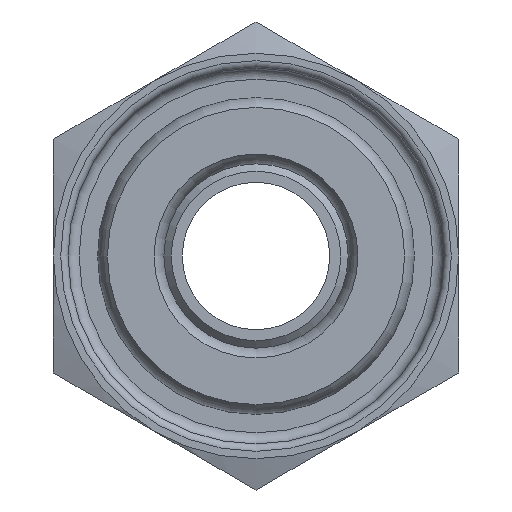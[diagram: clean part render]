
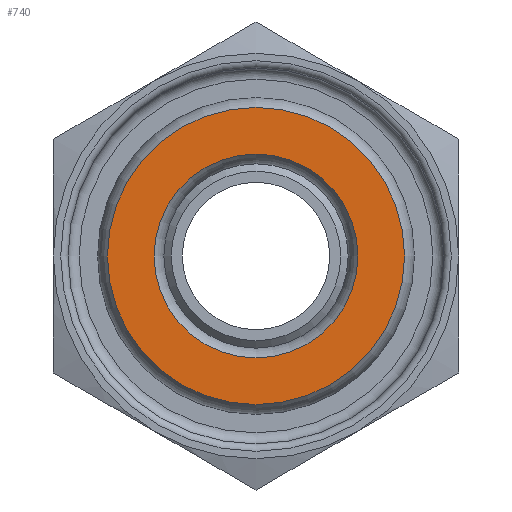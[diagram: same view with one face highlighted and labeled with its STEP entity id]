
A CAD part, front view. The second image highlights one B-rep face of the part: STEP entity #740.
In plain terms, the highlighted planar face has unit normal (0, -1, 0) as drawn and (1, 0, 0) by its records, which use the part's own axes.
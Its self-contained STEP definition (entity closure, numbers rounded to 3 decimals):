
#80=FACE_BOUND('',#217,.T.);
#98=PLANE('',#922);
#155=FACE_OUTER_BOUND('',#216,.T.);
#216=EDGE_LOOP('',(#678));
#217=EDGE_LOOP('',(#679));
#310=CIRCLE('',#916,2.767);
#312=CIRCLE('',#920,4.033);
#374=VERTEX_POINT('',#1430);
#376=VERTEX_POINT('',#1437);
#474=EDGE_CURVE('',#374,#374,#310,.T.);
#476=EDGE_CURVE('',#376,#376,#312,.T.);
#678=ORIENTED_EDGE('',*,*,#476,.T.);
#679=ORIENTED_EDGE('',*,*,#474,.F.);
#740=ADVANCED_FACE('',(#155,#80),#98,.T.);
#916=AXIS2_PLACEMENT_3D('',#1432,#1155,#1156);
#920=AXIS2_PLACEMENT_3D('',#1438,#1163,#1164);
#922=AXIS2_PLACEMENT_3D('',#1440,#1167,#1168);
#1155=DIRECTION('center_axis',(1.,0.,0.));
#1156=DIRECTION('ref_axis',(0.,1.,0.));
#1163=DIRECTION('center_axis',(1.,0.,0.));
#1164=DIRECTION('ref_axis',(0.,1.,0.));
#1167=DIRECTION('center_axis',(1.,0.,0.));
#1168=DIRECTION('ref_axis',(0.,0.,-1.));
#1430=CARTESIAN_POINT('',(0.,0.,2.767));
#1432=CARTESIAN_POINT('Origin',(0.,0.,0.));
#1437=CARTESIAN_POINT('',(0.,0.,4.033));
#1438=CARTESIAN_POINT('Origin',(0.,0.,0.));
#1440=CARTESIAN_POINT('Origin',(0.,3.084,0.));
